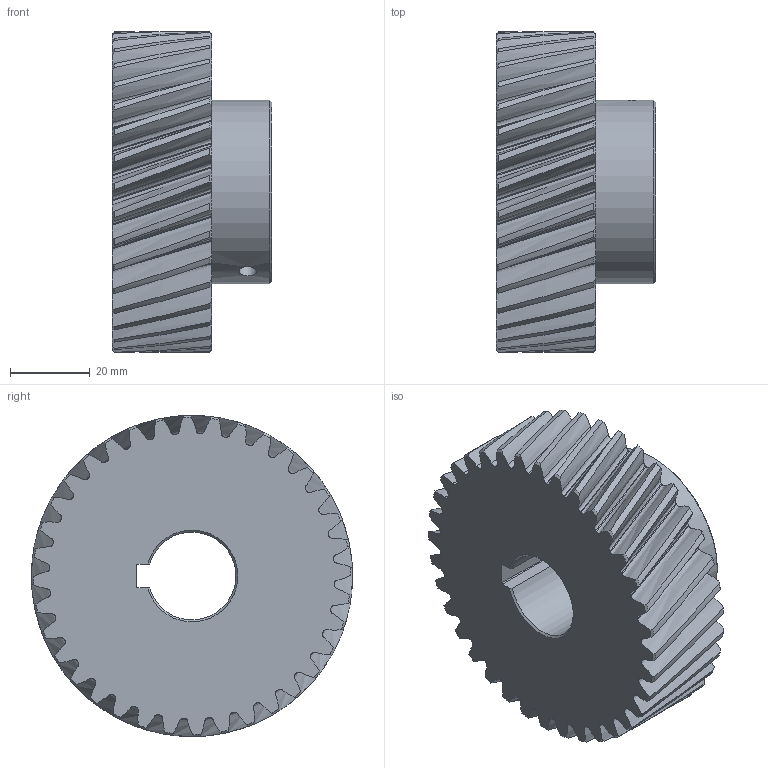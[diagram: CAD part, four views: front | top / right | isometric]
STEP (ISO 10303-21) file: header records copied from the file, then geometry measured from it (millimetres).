
FILE_DESCRIPTION(('STEP AP214'), '1');
FILE_NAME('GH2-T36D22 - Øåñòåðíÿ', '2018-06-14T08:13:53', (''), (''), 'ASCON STEP Converter 1.3', 'ASCON Math Kernel', '');
FILE_SCHEMA(('AUTOMOTIVE_DESIGN { 1 0 10303 214 3 1 1}'));
Length unit declared in the file: millimetre
Products named in the file (1): GH2-T36D22
Bounding box: 40 x 80.39 x 80.39 mm (x, y, z)
Volume: 122499.4 mm3; surface area: 25286.6 mm2
Topology: 1 solids, 1 shells, 303 faces, 902 edges, 605 vertices
Faces by surface type: bspline 144, cylinder 78, cone 75, plane 6
Full cylindrical faces by diameter (mm): 4.134 x1, 4.458 x1, 46 x1
Entity records: 20677 total; most frequent: CARTESIAN_POINT 11443, ORIENTED_EDGE 1790, EDGE_CURVE 895, DIRECTION 788, B_SPLINE_CURVE_WITH_KNOTS 656, VERTEX_POINT 599, AXIS2_PLACEMENT_3D 388, EDGE_LOOP 314
